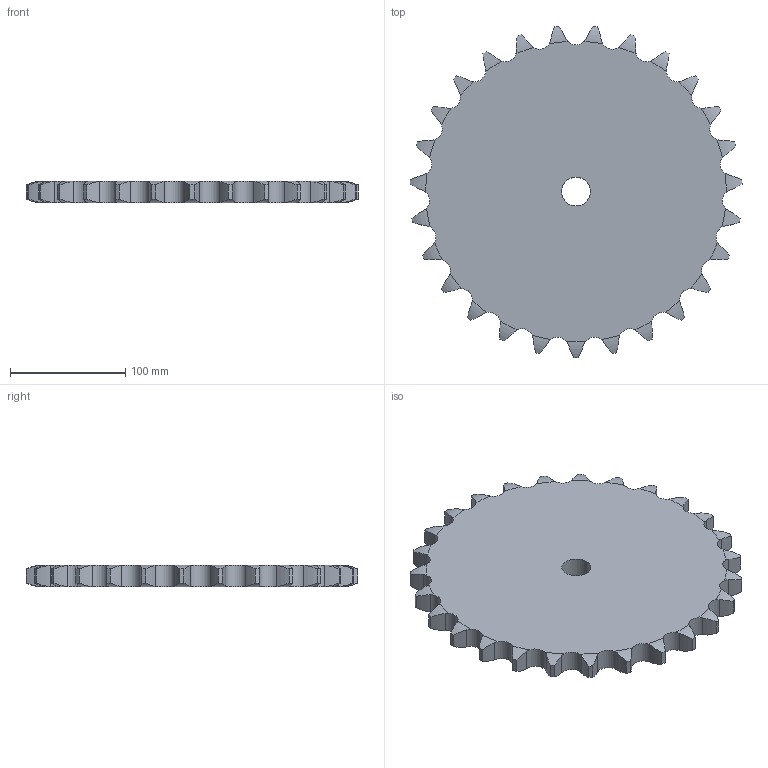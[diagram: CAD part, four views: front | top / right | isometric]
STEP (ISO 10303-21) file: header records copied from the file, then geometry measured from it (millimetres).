
FILE_DESCRIPTION((''),'2;1');
FILE_NAME('500-601-0027_PRT','2021-02-12T',('Brieden'),('Brieden'),'PRO/ENGINEER BY PARAMETRIC TECHNOLOGY CORPORATION, 2010160','PRO/ENGINEER BY PARAMETRIC TECHNOLOGY CORPORATION, 2010160','');
FILE_SCHEMA(('AUTOMOTIVE_DESIGN { 1 0 10303 214 1 1 1 1 }'));
Length unit declared in the file: millimetre
Products named in the file (1): 500-601-0027_PRT
Bounding box: 287.77 x 287.29 x 18.5 mm (x, y, z)
Volume: 1026203.7 mm3; surface area: 135793 mm2
Topology: 1 solids, 1 shells, 166 faces, 492 edges, 328 vertices
Faces by surface type: cylinder 110, torus 54, plane 2
Entity records: 8180 total; most frequent: CARTESIAN_POINT 2449, ORIENTED_EDGE 984, DIRECTION 774, PRESENTATION_STYLE_ASSIGNMENT 493, STYLED_ITEM 493, CURVE_STYLE 492, EDGE_CURVE 492, AXIS2_PLACEMENT_3D 332
